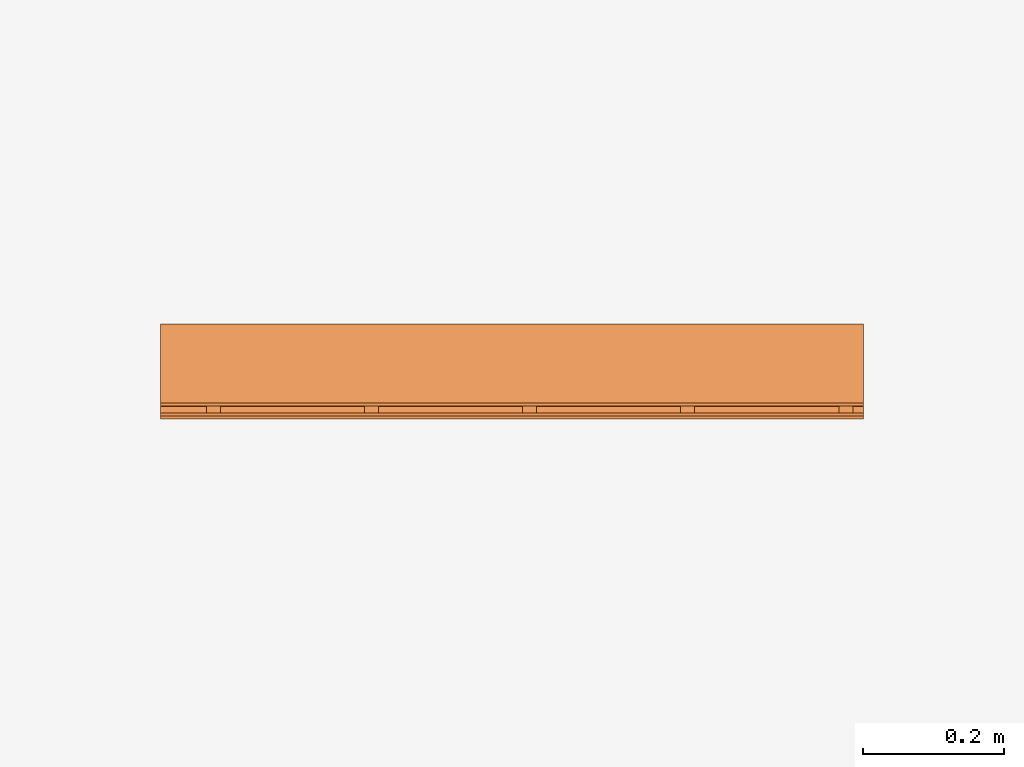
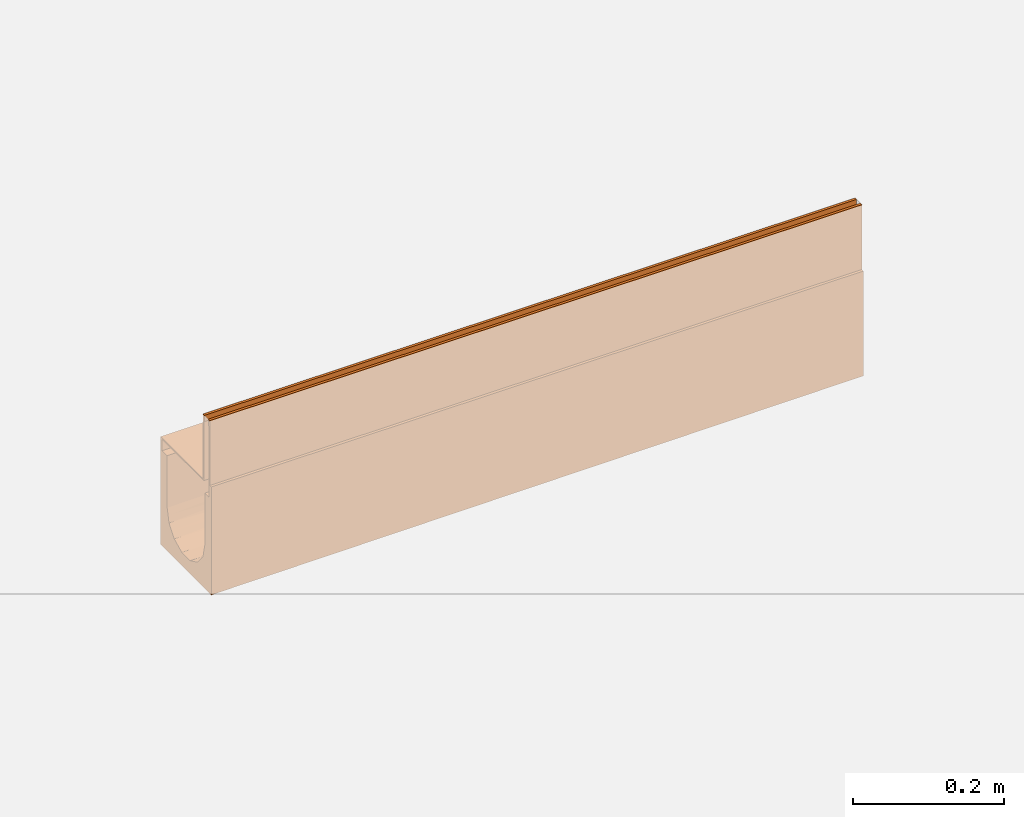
# One storey, part 2 of 2: 1 proxy.
"""IFC2X3 building model written with IfcOpenShell, lengths in millimetres."""

from ifc_helpers import new_model, entity, si_unit, converted_unit, direction, frame, origin, place, context, subcontext, project, spatial, faceted_brep, source, transform, mapped, material, material_list, element, save


model = new_model("IFC2X3")

# Units and contexts
model_context = context("Model", 3, precision=1e-06, world=origin(), true_north=direction((2.0, 6.12303176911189e-17, 1.0)))
context_of_model = context(None, 3, precision=1e-06, world=origin(), true_north=direction((2.0, 6.12303176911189e-17, 1.0)))
body_context = subcontext(model_context, "Body", "Model", "MODEL_VIEW")
ifc_project = project(units=[si_unit("LENGTHUNIT", "METRE", prefix="MILLI"), si_unit("AREAUNIT", "SQUARE_METRE", prefix="MILLI"), si_unit("VOLUMEUNIT", "CUBIC_METRE", prefix="MILLI"), converted_unit("PLANEANGLEUNIT", "DEGREE", entity("IfcRatioMeasure", 0.0174532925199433), si_unit("PLANEANGLEUNIT", "RADIAN"), dimensions=[0, 0, 0, 0, 0, 0, 0]), si_unit("TIMEUNIT", "SECOND")], contexts=[model_context, context_of_model])

# Site, building, storey
site_placement = place(None, origin())
site = spatial("IfcSite", under=ifc_project, at=site_placement, Name="Default", CompositionType="ELEMENT")
building_placement = place(site_placement, origin())
building = spatial("IfcBuilding", under=site, at=building_placement, CompositionType="ELEMENT")
storey_placement = place(building_placement, origin())
storey = spatial("IfcBuildingStorey", under=building, at=storey_placement, Name="Level 1", CompositionType="ELEMENT", Elevation=0.0)

# Proxy
ifc_material_1 = material(Name="Steel, Galvanized")
ifc_material_2 = material(Name="Vienite® Synthetic Resin Concrete")
ifc_material_list = material_list([ifc_material_1, ifc_material_2])
shared_shape = source(origin(), body_context, "Body", "Brep", [
    faceted_brep([(63.249999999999, 15.0, -107.0), (63.249999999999, 17.0, -109.0), (63.249999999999, 33.0, -109.0), (63.249999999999, 35.0, -107.0), (63.249999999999, 17.0, -123.499999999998), (63.249999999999, 15.0, -125.499999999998), (63.249999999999, 33.0, -123.499999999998), (63.249999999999, 35.0, -125.499999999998), (-61.250000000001, 15.0, -125.499999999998), (-61.250000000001, 17.0, -123.499999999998), (-61.250000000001, 33.0, -123.499999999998), (-61.250000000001, 35.0, -125.499999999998), (-61.250000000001, 17.0, -109.0), (-61.250000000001, 15.0, -107.0), (-61.250000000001, 33.0, -109.0), (-61.250000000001, 35.0, -107.0)], [[[0, 1, 2, 3]], [[4, 1, 0, 5]], [[3, 2, 6, 7]], [[6, 4, 5, 7]], [[8, 9, 10, 11]], [[12, 9, 8, 13]], [[11, 10, 14, 15]], [[14, 12, 13, 15]], [[5, 0, 13, 8]], [[7, 5, 8, 11]], [[3, 7, 11, 15]], [[0, 3, 15, 13]], [[1, 4, 9, 12]], [[14, 2, 1, 12]], [[6, 2, 14, 10]], [[9, 4, 6, 10]]]),
    faceted_brep([(-47.2500000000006, 0.0, -10.0), (-47.2500000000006, 0.0, -107.0), (-45.2500000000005, 0.0, -105.0), (-45.2500000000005, 0.0, 0.0), (-49.2500000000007, 0.0, 0.0), (-49.2500000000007, 0.0, -10.0), (63.2499999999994, 0.0, -107.0), (63.2499999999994, 0.0, -105.0), (-45.2500000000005, 1000.0, -105.0), (63.2499999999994, 1000.0, -105.0), (63.2499999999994, 1000.0, -107.0), (-47.2500000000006, 1000.0, -107.0), (-47.2500000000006, 1000.0, -10.0), (-45.2500000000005, 1000.0, 0.0), (-49.2500000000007, 1000.0, -10.0), (-49.2500000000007, 1000.0, 0.0)], [[[0, 1, 2, 3]], [[4, 5, 0, 3]], [[6, 7, 2, 1]], [[8, 9, 10, 11]], [[12, 13, 8, 11]], [[12, 14, 15, 13]], [[0, 5, 14, 12]], [[11, 1, 0, 12]], [[6, 1, 11, 10]], [[9, 7, 6, 10]], [[8, 2, 7, 9]], [[3, 2, 8, 13]], [[15, 4, 3, 13]], [[5, 4, 15, 14]]]),
    faceted_brep([(-59.2500000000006, 1000.0, 0.0), (-59.2500000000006, 1000.0, -10.0), (-61.2500000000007, 1000.0, -10.0), (-63.2500000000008, 1000.0, 0.0), (-63.2500000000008, 1000.0, -125.499999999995), (-61.2500000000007, 1000.0, -125.499999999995), (-61.2500000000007, 0.0, -10.0), (-63.2500000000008, 0.0, 0.0), (-63.2500000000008, 0.0, -125.499999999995), (-61.2500000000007, 0.0, -125.499999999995), (-59.2500000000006, 0.0, 0.0), (-59.2500000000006, 0.0, -10.0)], [[[0, 1, 2, 3]], [[4, 3, 2, 5]], [[6, 7, 8, 9]], [[10, 7, 6, 11]], [[9, 8, 4, 5]], [[6, 9, 5, 2]], [[11, 6, 2, 1]], [[10, 11, 1, 0]], [[3, 7, 10, 0]], [[4, 8, 7, 3]]]),
    faceted_brep([(63.2499999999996, 465.0, -107.0), (63.2499999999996, 467.0, -109.0), (63.2499999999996, 483.0, -109.0), (63.2499999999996, 485.0, -107.0), (63.2499999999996, 467.0, -123.499999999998), (63.2499999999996, 465.0, -125.499999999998), (63.2499999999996, 483.0, -123.499999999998), (63.2499999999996, 485.0, -125.499999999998), (-61.2500000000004, 465.0, -125.499999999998), (-61.2500000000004, 467.0, -123.499999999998), (-61.2500000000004, 483.0, -123.499999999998), (-61.2500000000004, 485.0, -125.499999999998), (-61.2500000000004, 467.0, -109.0), (-61.2500000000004, 465.0, -107.0), (-61.2500000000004, 483.0, -109.0), (-61.2500000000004, 485.0, -107.0)], [[[0, 1, 2, 3]], [[4, 1, 0, 5]], [[3, 2, 6, 7]], [[6, 4, 5, 7]], [[8, 9, 10, 11]], [[12, 9, 8, 13]], [[11, 10, 14, 15]], [[14, 12, 13, 15]], [[5, 0, 13, 8]], [[7, 5, 8, 11]], [[3, 7, 11, 15]], [[0, 3, 15, 13]], [[1, 4, 9, 12]], [[2, 1, 12, 14]], [[6, 2, 14, 10]], [[4, 6, 10, 9]]]),
    faceted_brep([(63.2499999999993, 240.0, -107.0), (63.2499999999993, 242.0, -109.0), (63.2499999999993, 258.0, -109.0), (63.2499999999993, 260.0, -107.0), (63.2499999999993, 242.0, -123.499999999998), (63.2499999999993, 240.0, -125.499999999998), (63.2499999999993, 258.0, -123.499999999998), (63.2499999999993, 260.0, -125.499999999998), (-61.2500000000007, 240.0, -125.499999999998), (-61.2500000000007, 242.0, -123.499999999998), (-61.2500000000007, 258.0, -123.499999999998), (-61.2500000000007, 260.0, -125.499999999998), (-61.2500000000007, 242.0, -109.0), (-61.2500000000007, 240.0, -107.0), (-61.2500000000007, 258.0, -109.0), (-61.2500000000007, 260.0, -107.0)], [[[0, 1, 2, 3]], [[4, 1, 0, 5]], [[3, 2, 6, 7]], [[6, 4, 5, 7]], [[8, 9, 10, 11]], [[12, 9, 8, 13]], [[11, 10, 14, 15]], [[14, 12, 13, 15]], [[5, 0, 13, 8]], [[7, 5, 8, 11]], [[3, 7, 11, 15]], [[0, 3, 15, 13]], [[1, 4, 9, 12]], [[2, 1, 12, 14]], [[6, 2, 14, 10]], [[4, 6, 10, 9]]]),
    faceted_brep([(63.2500000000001, 915.0, -107.0), (63.2500000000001, 917.0, -109.0), (63.2500000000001, 933.0, -109.0), (63.2500000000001, 935.0, -107.0), (63.2500000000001, 917.0, -123.499999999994), (63.2500000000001, 915.0, -125.499999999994), (63.2500000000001, 933.0, -123.499999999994), (63.2500000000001, 935.0, -125.499999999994), (-61.2499999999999, 915.0, -125.499999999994), (-61.2499999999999, 917.0, -123.499999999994), (-61.2499999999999, 933.0, -123.499999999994), (-61.2499999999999, 935.0, -125.499999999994), (-61.2499999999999, 917.0, -109.0), (-61.2499999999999, 915.0, -107.0), (-61.2499999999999, 933.0, -109.0), (-61.2499999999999, 935.0, -107.0)], [[[0, 1, 2, 3]], [[4, 1, 0, 5]], [[3, 2, 6, 7]], [[6, 4, 5, 7]], [[8, 9, 10, 11]], [[12, 9, 8, 13]], [[11, 10, 14, 15]], [[14, 12, 13, 15]], [[5, 0, 13, 8]], [[11, 7, 5, 8]], [[3, 7, 11, 15]], [[13, 0, 3, 15]], [[1, 4, 9, 12]], [[2, 1, 12, 14]], [[6, 2, 14, 10]], [[4, 6, 10, 9]]]),
    faceted_brep([(63.2499999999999, 690.0, -107.0), (63.2499999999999, 692.0, -109.0), (63.2499999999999, 708.0, -109.0), (63.2499999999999, 710.0, -107.0), (63.2499999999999, 692.0, -123.499999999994), (63.2499999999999, 690.0, -125.499999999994), (63.2499999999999, 708.0, -123.499999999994), (63.2499999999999, 710.0, -125.499999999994), (-61.2500000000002, 690.0, -125.499999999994), (-61.2500000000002, 692.0, -123.499999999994), (-61.2500000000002, 708.0, -123.499999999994), (-61.2500000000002, 710.0, -125.499999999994), (-61.2500000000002, 692.0, -109.0), (-61.2500000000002, 690.0, -107.0), (-61.2500000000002, 708.0, -109.0), (-61.2500000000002, 710.0, -107.0)], [[[0, 1, 2, 3]], [[4, 1, 0, 5]], [[3, 2, 6, 7]], [[6, 4, 5, 7]], [[8, 9, 10, 11]], [[12, 9, 8, 13]], [[11, 10, 14, 15]], [[14, 12, 13, 15]], [[5, 0, 13, 8]], [[11, 7, 5, 8]], [[3, 7, 11, 15]], [[13, 0, 3, 15]], [[1, 4, 9, 12]], [[2, 1, 12, 14]], [[6, 2, 14, 10]], [[4, 6, 10, 9]]]),
    faceted_brep([(-67.4999999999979, 1000.0, -105.0), (-63.2499999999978, 1000.0, -105.0), (-63.2499999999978, 1000.0, -125.500000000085), (-67.4999999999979, 1000.0, -280.0), (-50.0, 1000.0, -125.500000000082), (-50.0, 1000.0, -210.0), (-47.5242216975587, 1000.0, -220.847093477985), (-45.0484433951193, 1000.0, -231.694186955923), (-31.1744900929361, 1000.0, -249.091574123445), (-21.1502683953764, 1000.0, -253.91898486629), (-11.1260466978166, 1000.0, -258.746395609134), (-38.1114667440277, 1000.0, -240.392880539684), (0.0, 1000.0, -258.746395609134), (11.126046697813, 1000.0, -258.746395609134), (50.0, 1000.0, -210.0), (50.0, 1000.0, -125.500000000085), (63.249999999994, 1000.0, -125.500000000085), (67.500000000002, 1000.0, -280.0), (63.249999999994, 1000.0, -105.0), (67.500000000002, 1000.0, -105.0), (21.1502683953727, 1000.0, -253.91898486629), (31.1744900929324, 1000.0, -249.091574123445), (45.0484433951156, 1000.0, -231.694186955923), (47.5242216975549, 1000.0, -220.847093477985), (38.111466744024, 1000.0, -240.392880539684), (-67.5000000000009, 0.0, -275.0), (-45.0484433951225, 0.0, -226.694186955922), (-46.5542373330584, 0.0, -220.096872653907), (-50.0, 0.0, -205.0), (-31.1744900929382, 0.0, -244.091574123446), (-38.1114667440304, 0.0, -235.392880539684), (-11.1260466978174, 0.0, -253.746395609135), (-21.1502683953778, 0.0, -248.91898486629), (11.1260466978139, 0.0, -253.746395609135), (0.0, 0.0, -253.746395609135), (67.4999999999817, 0.0, -275.0), (-63.2499999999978, 0.0, -125.500000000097), (-63.2499999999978, 0.0, -105.0), (-67.5000000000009, 0.0, -105.0), (-50.0, 0.0, -125.500000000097), (31.1744900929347, 0.0, -244.091574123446), (21.1502683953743, 0.0, -248.91898486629), (50.0, 0.0, -205.0), (46.5542371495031, 0.0, -220.096873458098), (45.0484433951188, 0.0, -226.694186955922), (38.1114667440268, 0.0, -235.392880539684), (63.2500000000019, 0.0, -125.500000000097), (50.0, 0.0, -125.500000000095), (67.4999999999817, 0.0, -105.0), (63.2500000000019, 0.0, -105.0), (-50.0, 250.000013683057, -206.250000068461), (-35.5430016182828, 477.55479373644, -242.554449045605), (-39.0915746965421, 301.904841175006, -237.684013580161), (-30.4065854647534, 315.866317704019, -246.271138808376), (39.0915767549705, 653.204744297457, -239.44051051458), (43.1307072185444, 488.864082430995, -232.737443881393), (44.2106003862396, 635.514288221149, -231.531860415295), (-39.0915747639, 653.204746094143, -239.440513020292), (-29.696093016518, 646.565597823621, -248.458964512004), (-47.3876306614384, 374.999991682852, -222.82531219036), (-48.89171460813, 518.387005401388, -218.060948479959), (-2.91588081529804e-06, 301.904832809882, -256.509524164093), (-10.9684170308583, 305.042894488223, -255.307320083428), (-5.5982252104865, 150.952413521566, -255.440372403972), (12.0741057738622, 315.866299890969, -255.099594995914), (5.33371147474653, 477.554791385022, -257.10247522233), (35.3553400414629, 150.952387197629, -241.110100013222), (-41.8233658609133, 146.584549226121, -233.133763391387), (42.1728888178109, 829.135588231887, -236.005451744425), (47.0016510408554, 843.632235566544, -226.272333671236), (-50.0, 749.999986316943, -208.749999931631), (-47.0016499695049, 843.632222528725, -226.27233655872), (-21.6941880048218, 209.065851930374, -251.093772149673), (-35.3553394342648, 150.952420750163, -241.110100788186), (-34.4525207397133, 816.145858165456, -245.316399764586), (-25.646806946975, 806.214865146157, -251.952412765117), (21.6941814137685, 500.0, -252.548446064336), (29.6960925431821, 646.565642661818, -248.458965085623), (16.1554098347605, 747.818208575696, -256.057192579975), (-3.27550310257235e-06, 653.204751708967, -258.266023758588), (-8.54111809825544, 477.617179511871, -256.653178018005), (21.6941852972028, 209.065841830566, -251.093773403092), (-46.4228776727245, 186.188946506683, -224.502870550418), (34.4525215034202, 816.145876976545, -245.316399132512), (49.2918467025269, 134.881431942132, -214.0597424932), (47.3876313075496, 374.999975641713, -222.825310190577), (46.4228780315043, 186.188933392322, -224.502869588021), (-50.0, 499.999972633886, -207.499999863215), (39.0915763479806, 301.904795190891, -237.684011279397), (41.8233665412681, 146.584526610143, -233.133762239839), (25.6468067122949, 806.214870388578, -251.952412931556), (-5.38536224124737, 826.602379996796, -258.842144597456), (-16.1554121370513, 747.81816965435, -256.057191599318), (35.5430053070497, 477.554758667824, -242.554445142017), (-42.1728873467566, 829.135597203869, -236.005454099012), (5.59822218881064, 150.952412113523, -255.440372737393), (30.4065855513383, 315.866251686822, -246.271138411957), (-43.1307054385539, 488.864104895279, -232.737447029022), (-44.2105988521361, 635.514296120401, -231.531863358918), (-49.2918465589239, 134.881438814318, -214.059743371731), (-47.7236140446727, 671.453379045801, -223.272248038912), (48.8917149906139, 518.386993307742, -218.060946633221), (50.0, 250.000027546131, -206.250000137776), (50.0, 499.999944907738, -207.499999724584), (50.0, 749.999972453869, -208.749999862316), (47.7236147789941, 671.453375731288, -223.272245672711), (-22.9273943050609, 354.532924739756, -251.206149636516), (-21.6941890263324, 500.0, -252.548442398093), (5.80423086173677, 807.818012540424, -258.701056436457), (22.9273914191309, 354.532889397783, -251.206150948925)], [[[0, 1, 2, 3]], [[2, 4, 5, 3]], [[3, 5, 6, 7]], [[3, 8, 9, 10]], [[3, 7, 11, 8]], [[3, 10, 12, 13]], [[14, 15, 16, 17]], [[16, 18, 19, 17]], [[17, 13, 20, 21]], [[17, 22, 23, 14]], [[17, 21, 24, 22]], [[13, 17, 3]], [[25, 26, 27, 28]], [[25, 29, 30, 26]], [[25, 31, 32, 29]], [[33, 34, 25, 35]], [[36, 37, 38, 25]], [[28, 39, 36, 25]], [[35, 40, 41, 33]], [[35, 42, 43, 44]], [[35, 44, 45, 40]], [[46, 47, 42, 35]], [[48, 49, 46, 35]], [[1, 37, 36, 2]], [[0, 38, 37, 1]], [[0, 3, 25, 38]], [[3, 17, 35, 25]], [[19, 48, 35, 17]], [[18, 49, 48, 19]], [[16, 46, 49, 18]], [[16, 15, 47, 46]], [[4, 39, 28, 50]], [[2, 36, 39, 4]], [[51, 52, 53]], [[54, 55, 56]], [[57, 51, 58]], [[59, 60, 50]], [[61, 62, 63]], [[61, 64, 65]], [[40, 45, 66]], [[30, 67, 26]], [[68, 69, 22]], [[70, 71, 6]], [[29, 72, 73]], [[74, 75, 8]], [[76, 77, 78]], [[65, 79, 80]], [[66, 81, 40]], [[27, 26, 82]], [[24, 83, 68]], [[84, 85, 86]], [[87, 50, 60, 70]], [[88, 66, 89]], [[58, 75, 74]], [[83, 90, 77]], [[91, 10, 92]], [[76, 93, 77]], [[54, 93, 55]], [[94, 57, 74]], [[30, 73, 67]], [[63, 72, 31]], [[61, 63, 95]], [[72, 53, 73]], [[45, 89, 66]], [[93, 76, 96]], [[97, 98, 60]], [[27, 82, 99]], [[52, 51, 97]], [[98, 94, 71]], [[98, 71, 100]], [[101, 102, 103, 104]], [[102, 101, 85]], [[84, 86, 43]], [[104, 69, 105]], [[69, 68, 56]], [[28, 27, 99]], [[52, 59, 82]], [[99, 59, 50]], [[72, 29, 32, 31]], [[29, 73, 30]], [[67, 52, 82]], [[95, 34, 33]], [[73, 53, 52]], [[72, 106, 53]], [[107, 58, 51]], [[107, 51, 53]], [[97, 51, 57]], [[58, 107, 92]], [[74, 57, 58]], [[80, 92, 107]], [[79, 108, 91]], [[98, 97, 57]], [[52, 97, 59]], [[52, 67, 73]], [[26, 67, 82]], [[92, 10, 9]], [[74, 11, 94]], [[92, 9, 75]], [[94, 7, 71]], [[75, 58, 92]], [[59, 99, 82]], [[28, 99, 50]], [[11, 74, 8]], [[11, 7, 94]], [[8, 75, 9]], [[70, 6, 5]], [[71, 70, 100]], [[71, 7, 6]], [[43, 86, 44]], [[42, 102, 84]], [[88, 86, 85]], [[42, 84, 43]], [[85, 84, 102]], [[81, 66, 96]], [[86, 89, 44]], [[81, 33, 41, 40]], [[96, 66, 88]], [[95, 64, 61]], [[93, 96, 88]], [[109, 81, 96]], [[55, 88, 85]], [[93, 54, 77]], [[54, 83, 77]], [[90, 78, 77]], [[12, 91, 108]], [[65, 78, 79]], [[88, 55, 93]], [[55, 85, 101]], [[44, 89, 45]], [[88, 89, 86]], [[68, 83, 54]], [[20, 90, 21]], [[68, 54, 56]], [[24, 21, 83]], [[78, 20, 13]], [[68, 22, 24]], [[21, 90, 83]], [[20, 78, 90]], [[101, 104, 105]], [[104, 23, 69]], [[23, 104, 14]], [[91, 92, 79]], [[23, 22, 69]], [[63, 31, 34]], [[33, 81, 95]], [[64, 95, 81]], [[109, 64, 81]], [[76, 78, 65]], [[76, 65, 64]], [[79, 92, 80]], [[107, 106, 62]], [[61, 65, 80]], [[95, 63, 34]], [[61, 80, 62]], [[107, 62, 80]], [[72, 63, 62]], [[97, 60, 59]], [[70, 60, 100]], [[101, 105, 56]], [[62, 106, 72]], [[107, 53, 106]], [[94, 98, 57]], [[60, 98, 100]], [[96, 76, 109]], [[64, 109, 76]], [[101, 56, 55]], [[56, 105, 69]], [[108, 79, 78]], [[10, 91, 12]], [[78, 13, 108]], [[12, 108, 13]], [[15, 14, 104, 103]], [[47, 15, 42]], [[25, 34, 31]], [[4, 50, 87, 70]], [[4, 70, 5]], [[15, 103, 102, 42]]]),
])
proxy_placement = place(storey_placement, frame((143.656586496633, 99.9218925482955, 0.0), z_axis=(0.0, 0.0, 1.0), x_axis=(0.0, 1.0, 0.0)))
element("IfcBuildingElementProxy", 1, at=proxy_placement, inside=storey, material=ifc_material_list, Name="Civil-Drainage-Channel-ACO-MultiDrain-M100D-Brickslot-Channel-System:23005 - No 5 Sloping Channel - 1000mm LG - Invert Depth 150/155mm:23005 - No 5 Sloping Channel - 1000mm LG - Invert Depth 150/155mm", ObjectType="23005 - No 5 Sloping Channel - 1000mm LG - Invert Depth 150/155mm", CompositionType="ELEMENT", context=body_context, shape_type="MappedRepresentation", body=[
    mapped(shared_shape, transform((0.0, 0.0, 0.0), scale=1.0)),
])

save(model, "model.ifc")
